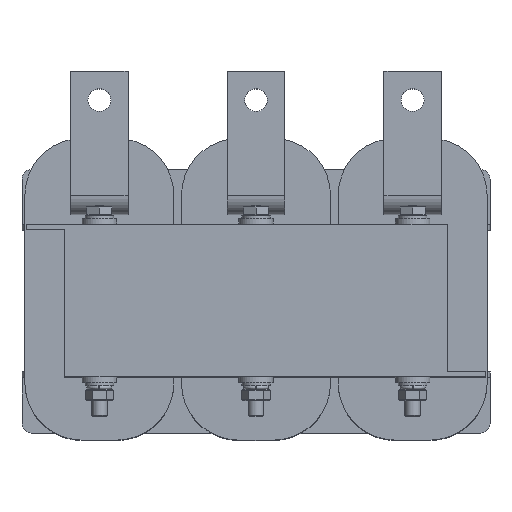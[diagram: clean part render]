
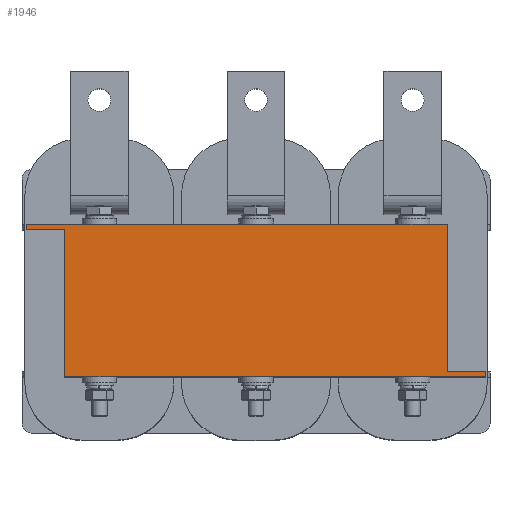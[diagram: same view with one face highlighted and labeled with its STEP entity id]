
A CAD part, top view. The second image highlights one B-rep face of the part: STEP entity #1946.
In plain terms, the highlighted planar face has unit normal (0, 0, 1).
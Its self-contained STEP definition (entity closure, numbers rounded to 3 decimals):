
#1946=ADVANCED_FACE('',(#2588),#2590,.T.);
#2588=FACE_BOUND('',#2589,.T.);
#2589=EDGE_LOOP('',(#3550,#3551,#3552,#3553,#3554,#3555,#3556,#3557));
#2590=PLANE('',#2591);
#2591=AXIS2_PLACEMENT_3D('',#2592,#2593,#2594);
#2592=CARTESIAN_POINT('',(0.,0.,45.));
#2593=DIRECTION('',(0.,0.,1.));
#2594=DIRECTION('',(-1.,0.,0.));
#3550=ORIENTED_EDGE('',*,*,#4032,.T.);
#3551=ORIENTED_EDGE('',*,*,#4051,.T.);
#3552=ORIENTED_EDGE('',*,*,#4021,.T.);
#3553=ORIENTED_EDGE('',*,*,#4052,.T.);
#3554=ORIENTED_EDGE('',*,*,#4013,.T.);
#3555=ORIENTED_EDGE('',*,*,#4053,.T.);
#3556=ORIENTED_EDGE('',*,*,#4002,.T.);
#3557=ORIENTED_EDGE('',*,*,#4050,.T.);
#4002=EDGE_CURVE('',#4428,#4426,#4429,.T.);
#4013=EDGE_CURVE('',#4450,#4448,#4451,.T.);
#4021=EDGE_CURVE('',#4466,#4464,#4467,.T.);
#4032=EDGE_CURVE('',#4488,#4486,#4489,.T.);
#4050=EDGE_CURVE('',#4426,#4488,#4511,.T.);
#4051=EDGE_CURVE('',#4486,#4466,#4512,.T.);
#4052=EDGE_CURVE('',#4464,#4450,#4513,.T.);
#4053=EDGE_CURVE('',#4448,#4428,#4514,.T.);
#4426=VERTEX_POINT('',#5290);
#4428=VERTEX_POINT('',#5294);
#4429=LINE('',#5295,#5296);
#4448=VERTEX_POINT('',#5339);
#4450=VERTEX_POINT('',#5343);
#4451=LINE('',#5344,#5345);
#4464=VERTEX_POINT('',#5373);
#4466=VERTEX_POINT('',#5377);
#4467=LINE('',#5378,#5379);
#4486=VERTEX_POINT('',#5422);
#4488=VERTEX_POINT('',#5426);
#4489=LINE('',#5427,#5428);
#4511=LINE('',#5487,#5488);
#4512=LINE('',#5490,#5491);
#4513=LINE('',#5493,#5494);
#4514=LINE('',#5496,#5497);
#5290=CARTESIAN_POINT('',(-120.,40.,45.));
#5294=CARTESIAN_POINT('',(100.,40.,45.));
#5295=CARTESIAN_POINT('',(100.,40.,45.));
#5296=VECTOR('',#5297,1.);
#5297=DIRECTION('',(-1.,0.,0.));
#5339=CARTESIAN_POINT('',(100.,-37.,45.));
#5343=CARTESIAN_POINT('',(120.,-37.,45.));
#5344=CARTESIAN_POINT('',(120.,-37.,45.));
#5345=VECTOR('',#5346,1.);
#5346=DIRECTION('',(-1.,0.,0.));
#5373=CARTESIAN_POINT('',(120.,-40.,45.));
#5377=CARTESIAN_POINT('',(-100.,-40.,45.));
#5378=CARTESIAN_POINT('',(-100.,-40.,45.));
#5379=VECTOR('',#5380,1.);
#5380=DIRECTION('',(1.,0.,0.));
#5422=CARTESIAN_POINT('',(-100.,37.,45.));
#5426=CARTESIAN_POINT('',(-120.,37.,45.));
#5427=CARTESIAN_POINT('',(-120.,37.,45.));
#5428=VECTOR('',#5429,1.);
#5429=DIRECTION('',(1.,0.,0.));
#5487=CARTESIAN_POINT('',(-120.,40.,45.));
#5488=VECTOR('',#5489,1.);
#5489=DIRECTION('',(0.,-1.,0.));
#5490=CARTESIAN_POINT('',(-100.,37.,45.));
#5491=VECTOR('',#5492,1.);
#5492=DIRECTION('',(0.,-1.,0.));
#5493=CARTESIAN_POINT('',(120.,-40.,45.));
#5494=VECTOR('',#5495,1.);
#5495=DIRECTION('',(0.,1.,0.));
#5496=CARTESIAN_POINT('',(100.,-37.,45.));
#5497=VECTOR('',#5498,1.);
#5498=DIRECTION('',(0.,1.,0.));
